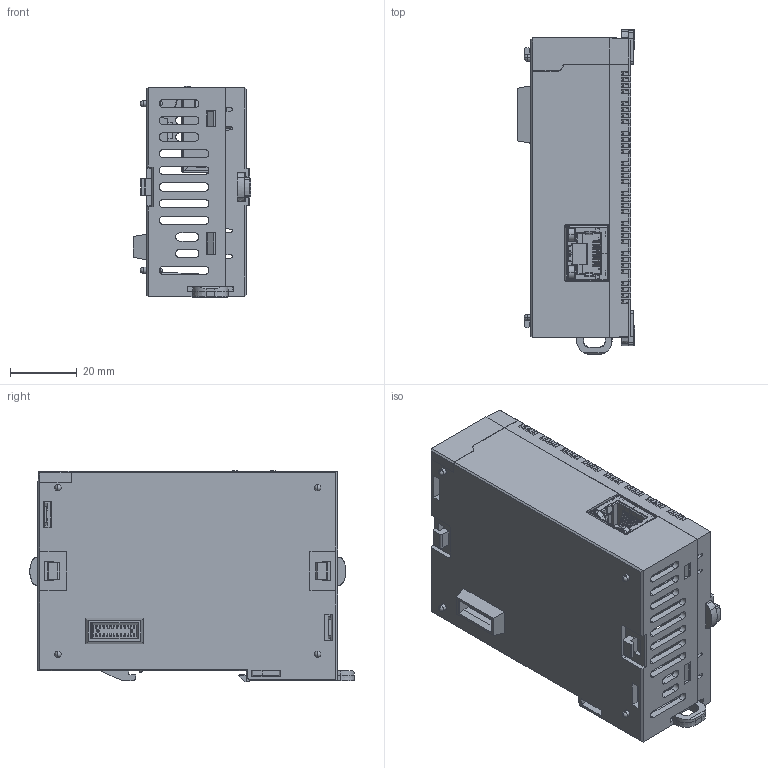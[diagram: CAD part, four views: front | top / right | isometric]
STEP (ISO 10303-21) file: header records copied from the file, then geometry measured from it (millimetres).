
FILE_DESCRIPTION (( 'STEP AP203' ), '1' );
FILE_NAME ('7.STEP', '2017-12-01T10:16:48', ( '' ), ( '' ), 'SwSTEP 2.0', 'SolidWorks 2017', '' );
FILE_SCHEMA (( 'CONFIG_CONTROL_DESIGN' ));
Length unit declared in the file: millimetre
Products named in the file (11): G; E; A; C; C-2; D; B; C-1; 7; H; F
Assembly tree (12 placements, depth 3):
  7
    A
    B
    C
      C-1
      C-2
    D
    E
    F
    G  x2
    H  x2
Bounding box: 35.2 x 97.47 x 63.39 mm (x, y, z)
Volume: 37691 mm3; surface area: 58232.3 mm2
Topology: 85 solids, 85 shells, 5495 faces, 15165 edges, 9831 vertices
Faces by surface type: plane 4308, cylinder 955, bspline 119, cone 79, sphere 20, torus 14
Entity records: 168472 total; most frequent: CARTESIAN_POINT 32859, ORIENTED_EDGE 28982, DIRECTION 26194, EDGE_CURVE 14491, LINE 12256, VECTOR 12256, VERTEX_POINT 9401, AXIS2_PLACEMENT_3D 6969
